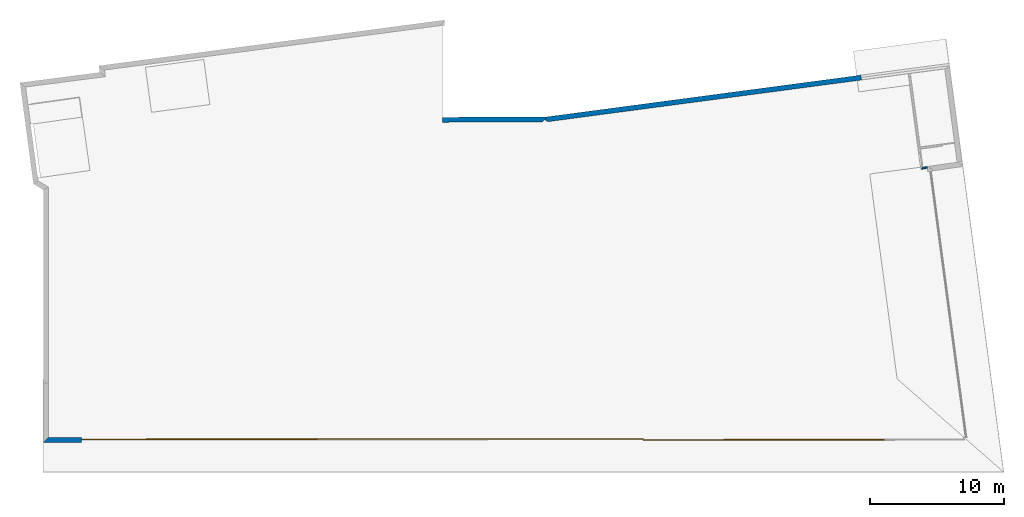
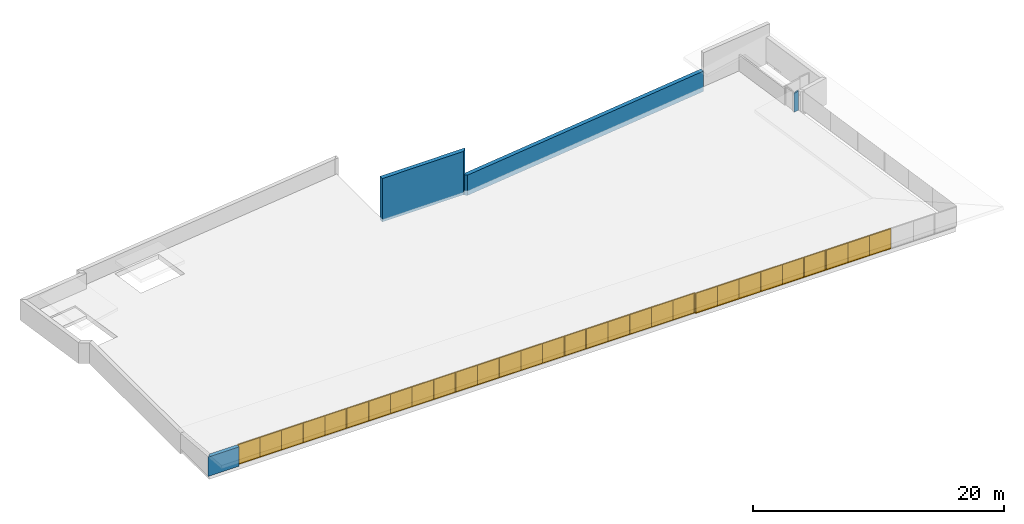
# One storey, part 2 of 7: 10 windows, 4 walls, 11 openings.
"""IFC2X3 building model written with IfcOpenShell, lengths in metres."""

from ifc_helpers import new_model, entity, si_unit, converted_unit, money_unit, direction, frame, origin_with_axes, origin_2d_with_axis, place, context, subcontext, project, spatial, polyline, rectangle, outline, extrude, clip, halfspace, bounded_halfspace, faceted_brep, source, transform, mapped, material, material_list, layer, layer_set, layer_usage, type_object, element, fill, save


model = new_model("IFC2X3")

# Units and contexts
model_context = context("Model", 3, precision=1e-05, world=origin_with_axes(), true_north=direction((0.0, 1.0)))
body_context = subcontext(model_context, "Body", "Model", "MODEL_VIEW")
ifc_project = project(units=[si_unit("LENGTHUNIT", "METRE"), si_unit("AREAUNIT", "SQUARE_METRE"), si_unit("VOLUMEUNIT", "CUBIC_METRE"), converted_unit("PLANEANGLEUNIT", "DEGREE", entity("IfcPlaneAngleMeasure", 0.0174532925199), si_unit("PLANEANGLEUNIT", "RADIAN"), dimensions=[0, 0, 0, 0, 0, 0, 0]), si_unit("SOLIDANGLEUNIT", "STERADIAN"), money_unit("EUR"), converted_unit("TIMEUNIT", "Year", entity("IfcTimeMeasure", 31556926.0), si_unit("TIMEUNIT", "SECOND"), dimensions=[0, 0, 0, 0, 0, 0, 0]), si_unit("MASSUNIT", "GRAM"), si_unit("THERMODYNAMICTEMPERATUREUNIT", "DEGREE_CELSIUS"), si_unit("LUMINOUSINTENSITYUNIT", "LUMEN")], contexts=[model_context])

# Site, building, storey
site_placement = place(None, origin_with_axes())
site = spatial("IfcSite", under=ifc_project, at=site_placement, Name="Undefined", CompositionType="ELEMENT")
building_placement = place(site_placement, origin_with_axes())
building = spatial("IfcBuilding", under=site, at=building_placement, Name="Undefined", CompositionType="ELEMENT")
storey_placement = place(building_placement, frame((0.0, 0.0, 17.4), z_axis=(0.0, 0.0, 1.0), x_axis=(1.0, 0.0, 0.0)))
storey = spatial("IfcBuildingStorey", under=building, at=storey_placement, Name="Toiture", CompositionType="ELEMENT", Elevation=17.4)

# Wall
ifc_material_1 = material(Name="Finition int - Enduit pl\x89tre")
ifc_layer_1 = layer(ifc_material_1, 0.015, ventilated="UNKNOWN")
ifc_material_2 = material(Name="Struct. - Parpaing b\x8eton")
ifc_layer_2 = layer(ifc_material_2, 0.1, ventilated="UNKNOWN")
ifc_layer_3 = layer(ifc_material_1, 0.015, ventilated="UNKNOWN")
ifc_layer_set_1 = layer_set([ifc_layer_1, ifc_layer_2, ifc_layer_3], Name="0.0-Cloison: parpaing + pl\x89tre 2 faces copie")
ifc_layer_usage_1 = layer_usage(ifc_layer_set_1, "AXIS2", "POSITIVE", 0.0)
wall_type_1 = type_object("IfcWallType", Name="0.0-Cloison: parpaing + pl\x89tre 2 faces copie 130", PredefinedType="NOTDEFINED")
wall_1_placement = place(storey_placement, frame((65.6897609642, 20.1834665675, 0.0), z_axis=(0.0, 0.0, 1.0), x_axis=(-0.990564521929, -0.137047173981, 0.0)))
element("IfcWallStandardCase", 1, at=wall_1_placement, inside=storey, type_object=wall_type_1, material=ifc_layer_usage_1, Name="Wall_Int_02", context=body_context, shape_type="Clipping", body=[
    clip(extrude(outline(polyline([(0.0, 0.0), (0.332625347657, 0.0), (0.463238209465, 0.13), (0.0, 0.13), (0.0, 0.0)])), origin_with_axes(), (0.0, 0.0, 1.0), 3.95), halfspace(frame((0.163166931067, -2.87988973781e-05, 1.86500658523), z_axis=(-0.0871557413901, 1.53829531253e-05, -0.996194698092), x_axis=(0.0, 0.999999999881, 1.54417135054e-05)), True)),
])

# Wall, openings, windows
ifc_material_3 = material(Name="Finition ext - Cr\x8epis")
ifc_layer_4 = layer(ifc_material_3, 0.015, ventilated="UNKNOWN")
ifc_material_4 = material(Name="Isolation - Fibres de bois")
ifc_layer_5 = layer(ifc_material_4, 0.16, ventilated="UNKNOWN")
ifc_material_5 = material(Name="Struct. - B.A. banch\x8e")
ifc_layer_6 = layer(ifc_material_5, 0.18, ventilated="UNKNOWN")
ifc_layer_7 = layer(ifc_material_1, 0.015, ventilated="UNKNOWN")
ifc_layer_set_2 = layer_set([ifc_layer_4, ifc_layer_5, ifc_layer_6, ifc_layer_7], Name="1.2-Mur ext: rev\x8et ext + isol ext + ma\x8donnerie + enduit")
ifc_layer_usage_2 = layer_usage(ifc_layer_set_2, "AXIS2", "POSITIVE", 0.0)
wall_type_2 = type_object("IfcWallType", Name="1.2-Mur ext: rev\x8et ext + isol ext + ma\x8donnerie + enduit 370", PredefinedType="NOTDEFINED")
wall_2_placement = place(storey_placement, frame((-0.37, -0.437599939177, 0.0), z_axis=(0.0, 0.0, 1.0), x_axis=(0.999999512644, 0.000987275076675, 0.0)))
wall_2 = element("IfcWallStandardCase", 2, at=wall_2_placement, inside=storey, type_object=wall_type_2, material=ifc_layer_usage_2, Name="SW - 010", ObjectType="WALL", context=body_context, shape_type="Clipping", body=[
    clip(clip(clip(extrude(outline(polyline([(0.0, 0.0), (68.8425471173, 0.0), (68.8425471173, 0.37), (0.370365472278, 0.37), (0.0, 0.0)])), origin_with_axes(), (0.0, 0.0, 1.0), 3.302), bounded_halfspace(frame((0.348543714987, 0.0465058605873, -4.01917951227), z_axis=(0.0863901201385, 0.0115269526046, -0.996194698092), x_axis=(0.0, 0.99993306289, 0.0115702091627)), True, origin_with_axes(), polyline([(68.3700868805, -0.01), (71.0799666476, -0.01), (71.0799666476, 0.0), (70.6458958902, 0.38), (67.9245932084, 0.38), (68.3700868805, -0.01)]))), bounded_halfspace(frame((-2.80584370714e-09, 0.163066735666, 1.8638613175), z_axis=(1.49966448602e-09, -0.0871557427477, -0.996194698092), x_axis=(0.0, 0.996194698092, -0.0871557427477)), True, origin_with_axes(), polyline([(-0.249966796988, -0.01), (68.6682250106, -0.01), (68.6682250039, 0.38), (-0.249966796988, 0.38), (-0.249966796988, -0.01)]))), bounded_halfspace(frame((-2.80584370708e-09, 0.163066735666, 1.8638613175), z_axis=(1.49966448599e-09, -0.0871557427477, -0.996194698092), x_axis=(0.0, 0.996194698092, -0.0871557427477)), True, origin_with_axes(), polyline([(-0.299976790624, -0.01), (68.6682250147, -0.01), (68.6682250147, 0.38), (-0.299976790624, 0.38), (-0.299976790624, -0.01)]))),
])
opening_1_placement = place(wall_2_placement, frame((65.8425467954, 0.0, 0.0), z_axis=(0.0, 0.0, 1.0), x_axis=(1.0, 0.0, 0.0)))
element("IfcOpeningElement", 3, at=opening_1_placement, cuts=wall_2, Name="WD - 001", context=body_context, shape_type="SweptSolid", body=[
    extrude(rectangle(XDim=6.0, YDim=2.0, at=origin_2d_with_axis()), frame((0.0, 0.74, 1.0), z_axis=(0.0, -1.0, 0.0), x_axis=(1.0, 0.0, 0.0)), (0.0, 0.0, 1.0), 0.62),
    extrude(rectangle(XDim=6.0, YDim=2.0, at=origin_2d_with_axis()), frame((0.0, -0.37, 1.0), z_axis=(0.0, 1.0, 0.0), x_axis=(1.0, 0.0, 0.0)), (0.0, 0.0, 1.0), 0.49),
])
opening_2_placement = place(wall_2_placement, frame((59.8425467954, 0.0, 0.0), z_axis=(0.0, 0.0, 1.0), x_axis=(1.0, 0.0, 0.0)))
opening_2 = element("IfcOpeningElement", 4, at=opening_2_placement, cuts=wall_2, Name="WD - 001", context=body_context, shape_type="SweptSolid", body=[
    extrude(rectangle(XDim=6.0, YDim=2.0, at=origin_2d_with_axis()), frame((0.0, 0.74, 1.0), z_axis=(0.0, 1.0, 0.0), x_axis=(-1.0, 0.0, 0.0)), (0.0, 0.0, -1.0), 0.62),
    extrude(rectangle(XDim=6.0, YDim=2.0, at=origin_2d_with_axis()), frame((0.0, -0.37, 1.0), z_axis=(0.0, -1.0, 0.0), x_axis=(-1.0, 0.0, 0.0)), (0.0, 0.0, -1.0), 0.49),
])
opening_3_placement = place(wall_2_placement, frame((53.8425467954, 0.0, 0.0), z_axis=(0.0, 0.0, 1.0), x_axis=(1.0, 0.0, 0.0)))
opening_3 = element("IfcOpeningElement", 5, at=opening_3_placement, cuts=wall_2, Name="WD - 002", context=body_context, shape_type="SweptSolid", body=[
    extrude(rectangle(XDim=6.0, YDim=2.0, at=origin_2d_with_axis()), frame((0.0, 0.74, 1.0), z_axis=(0.0, 1.0, 0.0), x_axis=(-1.0, 0.0, 0.0)), (0.0, 0.0, -1.0), 0.62),
    extrude(rectangle(XDim=6.0, YDim=2.0, at=origin_2d_with_axis()), frame((0.0, -0.37, 1.0), z_axis=(0.0, -1.0, 0.0), x_axis=(-1.0, 0.0, 0.0)), (0.0, 0.0, -1.0), 0.49),
])
opening_4_placement = place(wall_2_placement, frame((47.8425467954, 0.0, 0.0), z_axis=(0.0, 0.0, 1.0), x_axis=(1.0, 0.0, 0.0)))
opening_4 = element("IfcOpeningElement", 6, at=opening_4_placement, cuts=wall_2, Name="WD - 003", context=body_context, shape_type="SweptSolid", body=[
    extrude(rectangle(XDim=6.0, YDim=2.0, at=origin_2d_with_axis()), frame((0.0, 0.74, 1.0), z_axis=(0.0, 1.0, 0.0), x_axis=(-1.0, 0.0, 0.0)), (0.0, 0.0, -1.0), 0.62),
    extrude(rectangle(XDim=6.0, YDim=2.0, at=origin_2d_with_axis()), frame((0.0, -0.37, 1.0), z_axis=(0.0, -1.0, 0.0), x_axis=(-1.0, 0.0, 0.0)), (0.0, 0.0, -1.0), 0.49),
])
opening_5_placement = place(wall_2_placement, frame((41.8425467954, 0.0, 0.0), z_axis=(0.0, 0.0, 1.0), x_axis=(1.0, 0.0, 0.0)))
opening_5 = element("IfcOpeningElement", 7, at=opening_5_placement, cuts=wall_2, Name="WD - 004", context=body_context, shape_type="SweptSolid", body=[
    extrude(rectangle(XDim=6.0, YDim=2.0, at=origin_2d_with_axis()), frame((0.0, -0.37, 1.0), z_axis=(0.0, 1.0, 0.0), x_axis=(-1.0, 0.0, 0.0)), (0.0, 0.0, 1.0), 0.62),
    extrude(rectangle(XDim=6.0, YDim=2.0, at=origin_2d_with_axis()), frame((0.0, 0.74, 1.0), z_axis=(0.0, -1.0, 0.0), x_axis=(-1.0, 0.0, 0.0)), (0.0, 0.0, 1.0), 0.49),
])
opening_6_placement = place(wall_2_placement, frame((35.8425467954, 0.0, 0.0), z_axis=(0.0, 0.0, 1.0), x_axis=(1.0, 0.0, 0.0)))
opening_6 = element("IfcOpeningElement", 8, at=opening_6_placement, cuts=wall_2, Name="WD - 004", context=body_context, shape_type="SweptSolid", body=[
    extrude(rectangle(XDim=6.0, YDim=2.0, at=origin_2d_with_axis()), frame((0.0, -0.37, 1.0), z_axis=(0.0, 1.0, 0.0), x_axis=(-1.0, 0.0, 0.0)), (0.0, 0.0, 1.0), 0.62),
    extrude(rectangle(XDim=6.0, YDim=2.0, at=origin_2d_with_axis()), frame((0.0, 0.74, 1.0), z_axis=(0.0, -1.0, 0.0), x_axis=(-1.0, 0.0, 0.0)), (0.0, 0.0, 1.0), 0.49),
])
opening_7_placement = place(wall_2_placement, frame((29.8425467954, 0.0, 0.0), z_axis=(0.0, 0.0, 1.0), x_axis=(1.0, 0.0, 0.0)))
opening_7 = element("IfcOpeningElement", 9, at=opening_7_placement, cuts=wall_2, Name="WD - 004", context=body_context, shape_type="SweptSolid", body=[
    extrude(rectangle(XDim=6.0, YDim=2.0, at=origin_2d_with_axis()), frame((0.0, -0.37, 1.0), z_axis=(0.0, 1.0, 0.0), x_axis=(-1.0, 0.0, 0.0)), (0.0, 0.0, 1.0), 0.62),
    extrude(rectangle(XDim=6.0, YDim=2.0, at=origin_2d_with_axis()), frame((0.0, 0.74, 1.0), z_axis=(0.0, -1.0, 0.0), x_axis=(-1.0, 0.0, 0.0)), (0.0, 0.0, 1.0), 0.49),
])
opening_8_placement = place(wall_2_placement, frame((23.8425467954, 0.0, 0.0), z_axis=(0.0, 0.0, 1.0), x_axis=(1.0, 0.0, 0.0)))
opening_8 = element("IfcOpeningElement", 10, at=opening_8_placement, cuts=wall_2, Name="WD - 004", context=body_context, shape_type="SweptSolid", body=[
    extrude(rectangle(XDim=6.0, YDim=2.0, at=origin_2d_with_axis()), frame((0.0, -0.37, 1.0), z_axis=(0.0, 1.0, 0.0), x_axis=(-1.0, 0.0, 0.0)), (0.0, 0.0, 1.0), 0.62),
    extrude(rectangle(XDim=6.0, YDim=2.0, at=origin_2d_with_axis()), frame((0.0, 0.74, 1.0), z_axis=(0.0, -1.0, 0.0), x_axis=(-1.0, 0.0, 0.0)), (0.0, 0.0, 1.0), 0.49),
])
opening_9_placement = place(wall_2_placement, frame((17.8425467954, 0.0, 0.0), z_axis=(0.0, 0.0, 1.0), x_axis=(1.0, 0.0, 0.0)))
opening_9 = element("IfcOpeningElement", 11, at=opening_9_placement, cuts=wall_2, Name="WD - 004", context=body_context, shape_type="SweptSolid", body=[
    extrude(rectangle(XDim=6.0, YDim=2.0, at=origin_2d_with_axis()), frame((0.0, -0.37, 1.0), z_axis=(0.0, 1.0, 0.0), x_axis=(-1.0, 0.0, 0.0)), (0.0, 0.0, 1.0), 0.62),
    extrude(rectangle(XDim=6.0, YDim=2.0, at=origin_2d_with_axis()), frame((0.0, 0.74, 1.0), z_axis=(0.0, -1.0, 0.0), x_axis=(-1.0, 0.0, 0.0)), (0.0, 0.0, 1.0), 0.49),
])
opening_10_placement = place(wall_2_placement, frame((11.8425467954, 0.0, 0.0), z_axis=(0.0, 0.0, 1.0), x_axis=(1.0, 0.0, 0.0)))
opening_10 = element("IfcOpeningElement", 12, at=opening_10_placement, cuts=wall_2, Name="WD - 004", context=body_context, shape_type="SweptSolid", body=[
    extrude(rectangle(XDim=6.0, YDim=2.0, at=origin_2d_with_axis()), frame((0.0, -0.37, 1.0), z_axis=(0.0, 1.0, 0.0), x_axis=(-1.0, 0.0, 0.0)), (0.0, 0.0, 1.0), 0.62),
    extrude(rectangle(XDim=6.0, YDim=2.0, at=origin_2d_with_axis()), frame((0.0, 0.74, 1.0), z_axis=(0.0, -1.0, 0.0), x_axis=(-1.0, 0.0, 0.0)), (0.0, 0.0, 1.0), 0.49),
])
opening_11_placement = place(wall_2_placement, frame((5.84254679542, 0.0, 0.0), z_axis=(0.0, 0.0, 1.0), x_axis=(1.0, 0.0, 0.0)))
opening_11 = element("IfcOpeningElement", 13, at=opening_11_placement, cuts=wall_2, Name="WD - 004", context=body_context, shape_type="SweptSolid", body=[
    extrude(rectangle(XDim=6.0, YDim=2.0, at=origin_2d_with_axis()), frame((0.0, -0.37, 1.0), z_axis=(0.0, 1.0, 0.0), x_axis=(-1.0, 0.0, 0.0)), (0.0, 0.0, 1.0), 0.62),
    extrude(rectangle(XDim=6.0, YDim=2.0, at=origin_2d_with_axis()), frame((0.0, 0.74, 1.0), z_axis=(0.0, -1.0, 0.0), x_axis=(-1.0, 0.0, 0.0)), (0.0, 0.0, 1.0), 0.49),
])
ifc_material_6 = material(Name="Background")
ifc_material_7 = material(Name="Air Space")
ifc_material_8 = material(Name="Rigid Insulation")
ifc_material_list = material_list([ifc_material_6, ifc_material_7, ifc_material_6, ifc_material_6, ifc_material_6, ifc_material_8, ifc_material_6, ifc_material_6, ifc_material_6, ifc_material_6, ifc_material_7, ifc_material_6, ifc_material_6])
window_style_1 = type_object("IfcWindowStyle", Name="Fen\x90tre horizontale \x88 ch\x89ssis multiples 18", ConstructionType="NOTDEFINED", OperationType="TRIPLE_PANEL_VERTICAL", ParameterTakesPrecedence=False, Sizeable=False)
shared_shape_1 = source(origin_with_axes(), body_context, "Body", "Brep", [
    faceted_brep([(2.95, -0.05, 1.95), (3.0, -0.05, 2.0), (3.0, 0.0, 2.0), (2.95, 0.0, 1.95), (2.95, -0.05, 0.05), (3.0, -0.05, 0.0), (3.0, 0.0, 0.0), (2.95, 0.0, 0.05)], [[[0, 1, 2, 3]], [[0, 4, 5, 1]], [[1, 5, 6, 2]], [[3, 2, 6, 7]], [[4, 0, 3, 7]], [[5, 4, 7, 6]]]),
    faceted_brep([(1.01666666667, -0.05, 0.05), (0.991666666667, -0.05, 0.0), (0.991666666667, 0.0, 0.0), (1.01666666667, 0.0, 0.05), (1.01666666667, -0.05, 1.95), (0.991666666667, -0.05, 2.0), (0.991666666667, 0.0, 2.0), (1.01666666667, 0.0, 1.95)], [[[0, 1, 2, 3]], [[0, 4, 5, 1]], [[1, 5, 6, 2]], [[3, 2, 6, 7]], [[4, 0, 3, 7]], [[5, 4, 7, 6]]]),
    faceted_brep([(1.01666666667, -0.05, 1.95), (0.991666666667, -0.05, 2.0), (0.991666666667, 0.0, 2.0), (1.01666666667, 0.0, 1.95), (2.95, -0.05, 1.95), (3.0, -0.05, 2.0), (3.0, 0.0, 2.0), (2.95, 0.0, 1.95)], [[[0, 1, 2, 3]], [[0, 4, 5, 1]], [[1, 5, 6, 2]], [[3, 2, 6, 7]], [[4, 0, 3, 7]], [[5, 4, 7, 6]]]),
    faceted_brep([(2.95, -0.05, 0.05), (3.0, -0.05, 0.0), (3.0, 0.0, 0.0), (2.95, 0.0, 0.05), (1.01666666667, -0.05, 0.05), (0.991666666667, -0.05, 0.0), (0.991666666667, 0.0, 0.0), (1.01666666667, 0.0, 0.05)], [[[0, 1, 2, 3]], [[0, 4, 5, 1]], [[1, 5, 6, 2]], [[3, 2, 6, 7]], [[4, 0, 3, 7]], [[5, 4, 7, 6]]]),
    faceted_brep([(0.966666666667, -0.05, 1.95), (0.991666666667, -0.05, 2.0), (0.991666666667, 0.0, 2.0), (0.966666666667, 0.0, 1.95), (0.966666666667, -0.05, 0.05), (0.991666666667, -0.05, 0.0), (0.991666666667, 0.0, 0.0), (0.966666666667, 0.0, 0.05)], [[[0, 1, 2, 3]], [[0, 4, 5, 1]], [[1, 5, 6, 2]], [[3, 2, 6, 7]], [[4, 0, 3, 7]], [[5, 4, 7, 6]]]),
    faceted_brep([(-0.966666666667, -0.05, 0.05), (-0.991666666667, -0.05, 0.0), (-0.991666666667, 0.0, 0.0), (-0.966666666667, 0.0, 0.05), (-0.966666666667, -0.05, 1.95), (-0.991666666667, -0.05, 2.0), (-0.991666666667, 0.0, 2.0), (-0.966666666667, 0.0, 1.95)], [[[0, 1, 2, 3]], [[0, 4, 5, 1]], [[1, 5, 6, 2]], [[3, 2, 6, 7]], [[4, 0, 3, 7]], [[5, 4, 7, 6]]]),
    faceted_brep([(-0.966666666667, -0.05, 1.95), (-0.991666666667, -0.05, 2.0), (-0.991666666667, 0.0, 2.0), (-0.966666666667, 0.0, 1.95), (0.966666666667, -0.05, 1.95), (0.991666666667, -0.05, 2.0), (0.991666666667, 0.0, 2.0), (0.966666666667, 0.0, 1.95)], [[[0, 1, 2, 3]], [[0, 4, 5, 1]], [[1, 5, 6, 2]], [[3, 2, 6, 7]], [[4, 0, 3, 7]], [[5, 4, 7, 6]]]),
    faceted_brep([(0.966666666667, -0.05, 0.05), (0.991666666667, -0.05, 0.0), (0.991666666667, 0.0, 0.0), (0.966666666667, 0.0, 0.05), (-0.966666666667, -0.05, 0.05), (-0.991666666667, -0.05, 0.0), (-0.991666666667, 0.0, 0.0), (-0.966666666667, 0.0, 0.05)], [[[0, 1, 2, 3]], [[0, 4, 5, 1]], [[1, 5, 6, 2]], [[3, 2, 6, 7]], [[4, 0, 3, 7]], [[5, 4, 7, 6]]]),
    faceted_brep([(-1.01666666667, -0.05, 1.95), (-0.991666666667, -0.05, 2.0), (-0.991666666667, 0.0, 2.0), (-1.01666666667, 0.0, 1.95), (-1.01666666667, -0.05, 0.05), (-0.991666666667, -0.05, 0.0), (-0.991666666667, 0.0, 0.0), (-1.01666666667, 0.0, 0.05)], [[[0, 1, 2, 3]], [[0, 4, 5, 1]], [[1, 5, 6, 2]], [[3, 2, 6, 7]], [[4, 0, 3, 7]], [[5, 4, 7, 6]]]),
    faceted_brep([(-2.95, -0.05, 0.05), (-3.0, -0.05, 0.0), (-3.0, 0.0, 0.0), (-2.95, 0.0, 0.05), (-2.95, -0.05, 1.95), (-3.0, -0.05, 2.0), (-3.0, 0.0, 2.0), (-2.95, 0.0, 1.95)], [[[0, 1, 2, 3]], [[0, 4, 5, 1]], [[1, 5, 6, 2]], [[3, 2, 6, 7]], [[4, 0, 3, 7]], [[5, 4, 7, 6]]]),
    faceted_brep([(-2.95, -0.05, 1.95), (-3.0, -0.05, 2.0), (-3.0, 0.0, 2.0), (-2.95, 0.0, 1.95), (-1.01666666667, -0.05, 1.95), (-0.991666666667, -0.05, 2.0), (-0.991666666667, 0.0, 2.0), (-1.01666666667, 0.0, 1.95)], [[[0, 1, 2, 3]], [[0, 4, 5, 1]], [[1, 5, 6, 2]], [[3, 2, 6, 7]], [[4, 0, 3, 7]], [[5, 4, 7, 6]]]),
    faceted_brep([(-1.01666666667, -0.05, 0.05), (-0.991666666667, -0.05, 0.0), (-0.991666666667, 0.0, 0.0), (-1.01666666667, 0.0, 0.05), (-2.95, -0.05, 0.05), (-3.0, -0.05, 0.0), (-3.0, 0.0, 0.0), (-2.95, 0.0, 0.05)], [[[0, 1, 2, 3]], [[0, 4, 5, 1]], [[1, 5, 6, 2]], [[3, 2, 6, 7]], [[4, 0, 3, 7]], [[5, 4, 7, 6]]]),
    faceted_brep([(2.95, -0.035, 0.05), (1.01666666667, -0.035, 0.05), (1.01666666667, -0.015, 0.05), (2.95, -0.015, 0.05), (2.95, -0.035, 1.95), (1.01666666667, -0.035, 1.95), (1.01666666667, -0.015, 1.95), (2.95, -0.015, 1.95)], [[[0, 1, 2, 3]], [[0, 4, 5, 1]], [[1, 5, 6, 2]], [[3, 2, 6, 7]], [[4, 0, 3, 7]], [[5, 4, 7, 6]]]),
    faceted_brep([(0.966666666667, -0.035, 0.05), (-0.966666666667, -0.035, 0.05), (-0.966666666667, -0.015, 0.05), (0.966666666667, -0.015, 0.05), (0.966666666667, -0.035, 1.95), (-0.966666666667, -0.035, 1.95), (-0.966666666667, -0.015, 1.95), (0.966666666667, -0.015, 1.95)], [[[0, 1, 2, 3]], [[0, 4, 5, 1]], [[1, 5, 6, 2]], [[3, 2, 6, 7]], [[4, 0, 3, 7]], [[5, 4, 7, 6]]]),
    faceted_brep([(-1.01666666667, -0.035, 0.05), (-2.95, -0.035, 0.05), (-2.95, -0.015, 0.05), (-1.01666666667, -0.015, 0.05), (-1.01666666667, -0.035, 1.95), (-2.95, -0.035, 1.95), (-2.95, -0.015, 1.95), (-1.01666666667, -0.015, 1.95)], [[[0, 1, 2, 3]], [[0, 4, 5, 1]], [[1, 5, 6, 2]], [[3, 2, 6, 7]], [[4, 0, 3, 7]], [[5, 4, 7, 6]]]),
])
window_1_placement = place(opening_2_placement, frame((-3.0, 0.0, 0.0), z_axis=(0.0, 0.0, 1.0), x_axis=(1.0, 0.0, 0.0)))
window_1 = element("IfcWindow", 14, at=window_1_placement, inside=storey, type_object=window_style_1, material=ifc_material_list, Name="WD - 001", OverallHeight=2.0, OverallWidth=6.0, context=body_context, shape_type="MappedRepresentation", body=[
    mapped(shared_shape_1, transform((3.0, 0.17, 0.0))),
])
fill(opening_2, window_1)
window_2_placement = place(opening_3_placement, frame((-3.0, 0.0, 0.0), z_axis=(0.0, 0.0, 1.0), x_axis=(1.0, 0.0, 0.0)))
window_2 = element("IfcWindow", 15, at=window_2_placement, inside=storey, type_object=window_style_1, material=ifc_material_list, Name="WD - 002", OverallHeight=2.0, OverallWidth=6.0, context=body_context, shape_type="MappedRepresentation", body=[
    mapped(shared_shape_1, transform((3.0, 0.17, 0.0))),
])
fill(opening_3, window_2)
window_3_placement = place(opening_4_placement, frame((-3.0, 0.0, 0.0), z_axis=(0.0, 0.0, 1.0), x_axis=(1.0, 0.0, 0.0)))
window_3 = element("IfcWindow", 16, at=window_3_placement, inside=storey, type_object=window_style_1, material=ifc_material_list, Name="WD - 003", OverallHeight=2.0, OverallWidth=6.0, context=body_context, shape_type="MappedRepresentation", body=[
    mapped(shared_shape_1, transform((3.0, 0.17, 0.0))),
])
fill(opening_4, window_3)
window_style_2 = type_object("IfcWindowStyle", Name="Fen\x90tre horizontale \x88 ch\x89ssis multiples 18", ConstructionType="NOTDEFINED", OperationType="TRIPLE_PANEL_VERTICAL", ParameterTakesPrecedence=False, Sizeable=False)
shared_shape_2 = source(origin_with_axes(), body_context, "Body", "Brep", [
    faceted_brep([(-2.95, -0.05, 1.95), (-2.95, 0.0, 1.95), (-3.0, 0.0, 2.0), (-3.0, -0.05, 2.0), (-2.95, -0.05, 0.05), (-2.95, 0.0, 0.05), (-3.0, 0.0, 0.0), (-3.0, -0.05, 0.0)], [[[0, 1, 2, 3]], [[4, 5, 1, 0]], [[1, 5, 6, 2]], [[3, 2, 6, 7]], [[0, 3, 7, 4]], [[7, 6, 5, 4]]]),
    faceted_brep([(-1.01666666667, -0.05, 0.05), (-1.01666666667, 0.0, 0.05), (-0.991666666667, 0.0, 0.0), (-0.991666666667, -0.05, 0.0), (-1.01666666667, -0.05, 1.95), (-1.01666666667, 0.0, 1.95), (-0.991666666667, 0.0, 2.0), (-0.991666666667, -0.05, 2.0)], [[[0, 1, 2, 3]], [[4, 5, 1, 0]], [[1, 5, 6, 2]], [[3, 2, 6, 7]], [[0, 3, 7, 4]], [[7, 6, 5, 4]]]),
    faceted_brep([(-1.01666666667, -0.05, 1.95), (-1.01666666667, 0.0, 1.95), (-0.991666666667, 0.0, 2.0), (-0.991666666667, -0.05, 2.0), (-2.95, -0.05, 1.95), (-2.95, 0.0, 1.95), (-3.0, 0.0, 2.0), (-3.0, -0.05, 2.0)], [[[0, 1, 2, 3]], [[4, 5, 1, 0]], [[1, 5, 6, 2]], [[3, 2, 6, 7]], [[0, 3, 7, 4]], [[7, 6, 5, 4]]]),
    faceted_brep([(-2.95, -0.05, 0.05), (-2.95, 0.0, 0.05), (-3.0, 0.0, 0.0), (-3.0, -0.05, 0.0), (-1.01666666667, -0.05, 0.05), (-1.01666666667, 0.0, 0.05), (-0.991666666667, 0.0, 0.0), (-0.991666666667, -0.05, 0.0)], [[[0, 1, 2, 3]], [[4, 5, 1, 0]], [[1, 5, 6, 2]], [[3, 2, 6, 7]], [[0, 3, 7, 4]], [[7, 6, 5, 4]]]),
    faceted_brep([(-0.966666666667, -0.05, 1.95), (-0.966666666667, 0.0, 1.95), (-0.991666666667, 0.0, 2.0), (-0.991666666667, -0.05, 2.0), (-0.966666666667, -0.05, 0.05), (-0.966666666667, 0.0, 0.05), (-0.991666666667, 0.0, 0.0), (-0.991666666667, -0.05, 0.0)], [[[0, 1, 2, 3]], [[4, 5, 1, 0]], [[1, 5, 6, 2]], [[3, 2, 6, 7]], [[0, 3, 7, 4]], [[7, 6, 5, 4]]]),
    faceted_brep([(0.966666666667, -0.05, 0.05), (0.966666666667, 0.0, 0.05), (0.991666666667, 0.0, 0.0), (0.991666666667, -0.05, 0.0), (0.966666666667, -0.05, 1.95), (0.966666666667, 0.0, 1.95), (0.991666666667, 0.0, 2.0), (0.991666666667, -0.05, 2.0)], [[[0, 1, 2, 3]], [[4, 5, 1, 0]], [[1, 5, 6, 2]], [[3, 2, 6, 7]], [[0, 3, 7, 4]], [[7, 6, 5, 4]]]),
    faceted_brep([(0.966666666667, -0.05, 1.95), (0.966666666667, 0.0, 1.95), (0.991666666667, 0.0, 2.0), (0.991666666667, -0.05, 2.0), (-0.966666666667, -0.05, 1.95), (-0.966666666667, 0.0, 1.95), (-0.991666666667, 0.0, 2.0), (-0.991666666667, -0.05, 2.0)], [[[0, 1, 2, 3]], [[4, 5, 1, 0]], [[1, 5, 6, 2]], [[3, 2, 6, 7]], [[0, 3, 7, 4]], [[7, 6, 5, 4]]]),
    faceted_brep([(-0.966666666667, -0.05, 0.05), (-0.966666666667, 0.0, 0.05), (-0.991666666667, 0.0, 0.0), (-0.991666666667, -0.05, 0.0), (0.966666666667, -0.05, 0.05), (0.966666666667, 0.0, 0.05), (0.991666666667, 0.0, 0.0), (0.991666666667, -0.05, 0.0)], [[[0, 1, 2, 3]], [[4, 5, 1, 0]], [[1, 5, 6, 2]], [[3, 2, 6, 7]], [[0, 3, 7, 4]], [[7, 6, 5, 4]]]),
    faceted_brep([(1.01666666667, -0.05, 1.95), (1.01666666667, 0.0, 1.95), (0.991666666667, 0.0, 2.0), (0.991666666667, -0.05, 2.0), (1.01666666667, -0.05, 0.05), (1.01666666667, 0.0, 0.05), (0.991666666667, 0.0, 0.0), (0.991666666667, -0.05, 0.0)], [[[0, 1, 2, 3]], [[4, 5, 1, 0]], [[1, 5, 6, 2]], [[3, 2, 6, 7]], [[0, 3, 7, 4]], [[7, 6, 5, 4]]]),
    faceted_brep([(2.95, -0.05, 0.05), (2.95, 0.0, 0.05), (3.0, 0.0, 0.0), (3.0, -0.05, 0.0), (2.95, -0.05, 1.95), (2.95, 0.0, 1.95), (3.0, 0.0, 2.0), (3.0, -0.05, 2.0)], [[[0, 1, 2, 3]], [[4, 5, 1, 0]], [[1, 5, 6, 2]], [[3, 2, 6, 7]], [[0, 3, 7, 4]], [[7, 6, 5, 4]]]),
    faceted_brep([(2.95, -0.05, 1.95), (2.95, 0.0, 1.95), (3.0, 0.0, 2.0), (3.0, -0.05, 2.0), (1.01666666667, -0.05, 1.95), (1.01666666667, 0.0, 1.95), (0.991666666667, 0.0, 2.0), (0.991666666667, -0.05, 2.0)], [[[0, 1, 2, 3]], [[4, 5, 1, 0]], [[1, 5, 6, 2]], [[3, 2, 6, 7]], [[0, 3, 7, 4]], [[7, 6, 5, 4]]]),
    faceted_brep([(1.01666666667, -0.05, 0.05), (1.01666666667, 0.0, 0.05), (0.991666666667, 0.0, 0.0), (0.991666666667, -0.05, 0.0), (2.95, -0.05, 0.05), (2.95, 0.0, 0.05), (3.0, 0.0, 0.0), (3.0, -0.05, 0.0)], [[[0, 1, 2, 3]], [[4, 5, 1, 0]], [[1, 5, 6, 2]], [[3, 2, 6, 7]], [[0, 3, 7, 4]], [[7, 6, 5, 4]]]),
    faceted_brep([(-2.95, -0.035, 0.05), (-2.95, -0.015, 0.05), (-1.01666666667, -0.015, 0.05), (-1.01666666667, -0.035, 0.05), (-2.95, -0.035, 1.95), (-2.95, -0.015, 1.95), (-1.01666666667, -0.015, 1.95), (-1.01666666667, -0.035, 1.95)], [[[0, 1, 2, 3]], [[4, 5, 1, 0]], [[1, 5, 6, 2]], [[3, 2, 6, 7]], [[0, 3, 7, 4]], [[7, 6, 5, 4]]]),
    faceted_brep([(-0.966666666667, -0.035, 0.05), (-0.966666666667, -0.015, 0.05), (0.966666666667, -0.015, 0.05), (0.966666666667, -0.035, 0.05), (-0.966666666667, -0.035, 1.95), (-0.966666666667, -0.015, 1.95), (0.966666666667, -0.015, 1.95), (0.966666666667, -0.035, 1.95)], [[[0, 1, 2, 3]], [[4, 5, 1, 0]], [[1, 5, 6, 2]], [[3, 2, 6, 7]], [[0, 3, 7, 4]], [[7, 6, 5, 4]]]),
    faceted_brep([(1.01666666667, -0.035, 0.05), (1.01666666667, -0.015, 0.05), (2.95, -0.015, 0.05), (2.95, -0.035, 0.05), (1.01666666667, -0.035, 1.95), (1.01666666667, -0.015, 1.95), (2.95, -0.015, 1.95), (2.95, -0.035, 1.95)], [[[0, 1, 2, 3]], [[4, 5, 1, 0]], [[1, 5, 6, 2]], [[3, 2, 6, 7]], [[0, 3, 7, 4]], [[7, 6, 5, 4]]]),
])
window_4_placement = place(opening_5_placement, frame((3.0, 0.0, 0.0), z_axis=(0.0, 0.0, 1.0), x_axis=(-1.0, 0.0, 0.0)))
window_4 = element("IfcWindow", 17, at=window_4_placement, inside=storey, type_object=window_style_2, material=ifc_material_list, Name="WD - 004", OverallHeight=2.0, OverallWidth=6.0, context=body_context, shape_type="MappedRepresentation", body=[
    mapped(shared_shape_2, transform((3.0, -0.2, 0.0))),
])
fill(opening_5, window_4)
window_5_placement = place(opening_6_placement, frame((3.0, 0.0, 0.0), z_axis=(0.0, 0.0, 1.0), x_axis=(-1.0, 0.0, 0.0)))
window_5 = element("IfcWindow", 18, at=window_5_placement, inside=storey, type_object=window_style_2, material=ifc_material_list, Name="WD - 004", OverallHeight=2.0, OverallWidth=6.0, context=body_context, shape_type="MappedRepresentation", body=[
    mapped(shared_shape_2, transform((3.0, -0.2, 0.0))),
])
fill(opening_6, window_5)
window_6_placement = place(opening_7_placement, frame((3.0, 0.0, 0.0), z_axis=(0.0, 0.0, 1.0), x_axis=(-1.0, 0.0, 0.0)))
window_6 = element("IfcWindow", 19, at=window_6_placement, inside=storey, type_object=window_style_2, material=ifc_material_list, Name="WD - 004", OverallHeight=2.0, OverallWidth=6.0, context=body_context, shape_type="MappedRepresentation", body=[
    mapped(shared_shape_2, transform((3.0, -0.2, 0.0))),
])
fill(opening_7, window_6)
window_7_placement = place(opening_8_placement, frame((3.0, 0.0, 0.0), z_axis=(0.0, 0.0, 1.0), x_axis=(-1.0, 0.0, 0.0)))
window_7 = element("IfcWindow", 20, at=window_7_placement, inside=storey, type_object=window_style_2, material=ifc_material_list, Name="WD - 004", OverallHeight=2.0, OverallWidth=6.0, context=body_context, shape_type="MappedRepresentation", body=[
    mapped(shared_shape_2, transform((3.0, -0.2, 0.0))),
])
fill(opening_8, window_7)
window_8_placement = place(opening_9_placement, frame((3.0, 0.0, 0.0), z_axis=(0.0, 0.0, 1.0), x_axis=(-1.0, 0.0, 0.0)))
window_8 = element("IfcWindow", 21, at=window_8_placement, inside=storey, type_object=window_style_2, material=ifc_material_list, Name="WD - 004", OverallHeight=2.0, OverallWidth=6.0, context=body_context, shape_type="MappedRepresentation", body=[
    mapped(shared_shape_2, transform((3.0, -0.2, 0.0))),
])
fill(opening_9, window_8)
window_9_placement = place(opening_10_placement, frame((3.0, 0.0, 0.0), z_axis=(0.0, 0.0, 1.0), x_axis=(-1.0, 0.0, 0.0)))
window_9 = element("IfcWindow", 22, at=window_9_placement, inside=storey, type_object=window_style_2, material=ifc_material_list, Name="WD - 004", OverallHeight=2.0, OverallWidth=6.0, context=body_context, shape_type="MappedRepresentation", body=[
    mapped(shared_shape_2, transform((3.0, -0.2, 0.0))),
])
fill(opening_10, window_9)
window_10_placement = place(opening_11_placement, frame((3.0, 0.0, 0.0), z_axis=(0.0, 0.0, 1.0), x_axis=(-1.0, 0.0, 0.0)))
window_10 = element("IfcWindow", 23, at=window_10_placement, inside=storey, type_object=window_style_2, material=ifc_material_list, Name="WD - 004", OverallHeight=2.0, OverallWidth=6.0, context=body_context, shape_type="MappedRepresentation", body=[
    mapped(shared_shape_2, transform((3.0, -0.2, 0.0))),
])
fill(opening_11, window_10)

# Walls
ifc_layer_usage_3 = layer_usage(ifc_layer_set_2, "AXIS2", "POSITIVE", 0.0)
wall_3_placement = place(storey_placement, frame((60.7390008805, 27.0254199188, -0.44), z_axis=(0.0, 0.0, 1.0), x_axis=(-0.991285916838, -0.131727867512, 0.0)))
element("IfcWallStandardCase", 24, at=wall_3_placement, inside=storey, type_object=wall_type_2, material=ifc_layer_usage_3, Name="WallEx_09", ObjectType="WALL", context=body_context, shape_type="SweptSolid", body=[
    extrude(outline(polyline([(0.0, 0.0), (24.0167814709, 0.0), (23.6910452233, 0.37), (0.0, 0.37), (0.0, 0.0)])), origin_with_axes(), (0.0, 0.0, 1.0), 1.97113952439),
])
ifc_layer_usage_4 = layer_usage(ifc_layer_set_2, "AXIS2", "POSITIVE", 0.0)
wall_4_placement = place(storey_placement, frame((37.301260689, 23.9108759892, -0.24), z_axis=(0.0, 0.0, 1.0), x_axis=(-0.999985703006, -0.0053473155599, 0.0)))
element("IfcWallStandardCase", 25, at=wall_4_placement, inside=storey, type_object=wall_type_2, material=ifc_layer_usage_4, Name="WALL_EX_03", ObjectType="WALL", context=body_context, shape_type="SweptSolid", body=[
    extrude(outline(polyline([(0.0, 0.0), (7.85562281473, 0.0), (7.85760106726, 0.37), (0.370113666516, 0.37), (0.0, 0.0)])), origin_with_axes(), (0.0, 0.0, 1.0), 4.215),
])

save(model, "model.ifc")
